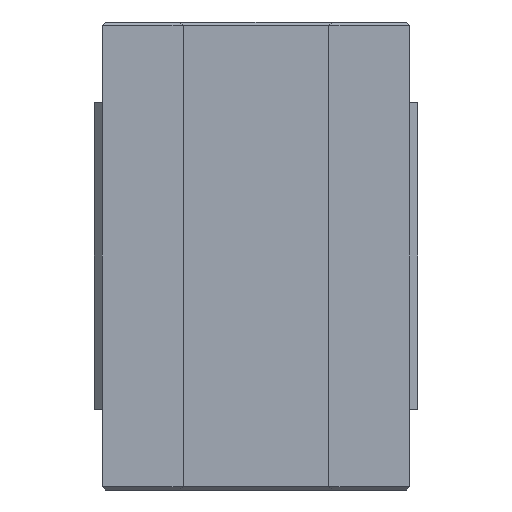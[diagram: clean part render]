
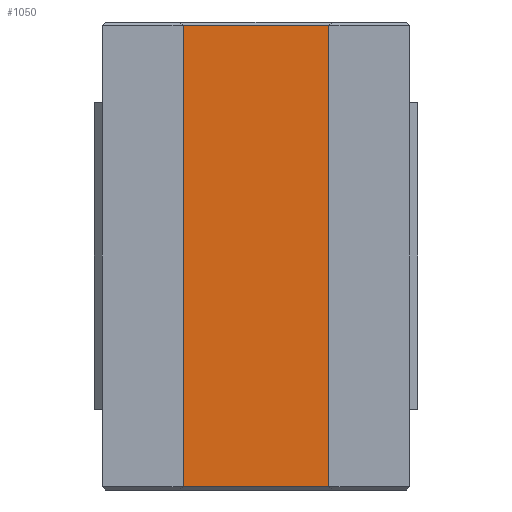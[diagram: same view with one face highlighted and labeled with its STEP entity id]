
A CAD part, front view. The second image highlights one B-rep face of the part: STEP entity #1050.
In plain terms, the highlighted planar face has unit normal (0, -1, 0).
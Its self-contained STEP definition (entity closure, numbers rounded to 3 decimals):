
#72=FACE_OUTER_BOUND('',#134,.T.);
#134=EDGE_LOOP('',(#745,#746,#747,#748));
#215=LINE('',#1546,#347);
#224=LINE('',#1564,#356);
#226=LINE('',#1568,#358);
#227=LINE('',#1569,#359);
#347=VECTOR('',#1247,10.);
#356=VECTOR('',#1262,10.);
#358=VECTOR('',#1266,10.);
#359=VECTOR('',#1267,10.);
#454=VERTEX_POINT('',#1494);
#469=VERTEX_POINT('',#1540);
#476=VERTEX_POINT('',#1563);
#477=VERTEX_POINT('',#1567);
#571=EDGE_CURVE('',#454,#469,#215,.T.);
#580=EDGE_CURVE('',#476,#469,#224,.T.);
#582=EDGE_CURVE('',#477,#454,#226,.T.);
#583=EDGE_CURVE('',#476,#477,#227,.T.);
#745=ORIENTED_EDGE('',*,*,#571,.F.);
#746=ORIENTED_EDGE('',*,*,#582,.F.);
#747=ORIENTED_EDGE('',*,*,#583,.F.);
#748=ORIENTED_EDGE('',*,*,#580,.T.);
#1000=PLANE('',#1132);
#1050=ADVANCED_FACE('',(#72),#1000,.T.);
#1132=AXIS2_PLACEMENT_3D('',#1566,#1264,#1265);
#1247=DIRECTION('',(1.,0.,0.));
#1262=DIRECTION('',(0.,0.,1.));
#1264=DIRECTION('center_axis',(0.,-1.,0.));
#1265=DIRECTION('ref_axis',(1.,0.,0.));
#1266=DIRECTION('',(0.,0.,1.));
#1267=DIRECTION('',(-1.,0.,0.));
#1494=CARTESIAN_POINT('',(-4.5,6.5,14.25));
#1540=CARTESIAN_POINT('',(4.5,6.5,14.25));
#1546=CARTESIAN_POINT('',(-2.25,6.5,14.25));
#1563=CARTESIAN_POINT('',(4.5,6.5,-14.25));
#1564=CARTESIAN_POINT('',(4.5,6.5,0.));
#1566=CARTESIAN_POINT('Origin',(-4.5,6.5,0.));
#1567=CARTESIAN_POINT('',(-4.5,6.5,-14.25));
#1568=CARTESIAN_POINT('',(-4.5,6.5,0.));
#1569=CARTESIAN_POINT('',(-2.25,6.5,-14.25));
